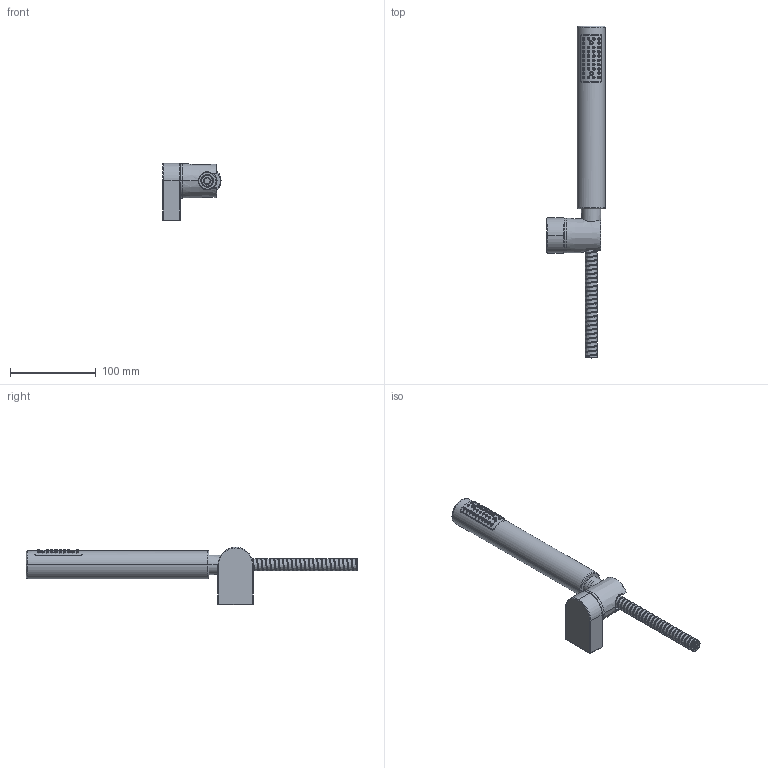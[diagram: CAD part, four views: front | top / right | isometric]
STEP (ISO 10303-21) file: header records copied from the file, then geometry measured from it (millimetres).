
FILE_DESCRIPTION (( 'STEP AP203' ), '1' );
FILE_NAME ('DSB-2561-64-3D.STEP', '2023-11-10T15:44:02', ( '' ), ( '' ), 'SwSTEP 2.0', 'SolidWorks 2022', '' );
FILE_SCHEMA (( 'CONFIG_CONTROL_DESIGN' ));
Products named in the file (1): DSB-2561-64-3D
Bounding box: 67.85 x 387 x 67 mm (x, y, z)
Volume: 222367.7 mm3; surface area: 91093.6 mm2
Topology: 6 solids, 6 shells, 667 faces, 1464 edges, 901 vertices
Faces by surface type: cylinder 294, bspline 227, plane 97, cone 23, sphere 16, torus 10
Entity records: 78470 total; most frequent: CARTESIAN_POINT 66195, ORIENTED_EDGE 2910, DIRECTION 1727, EDGE_CURVE 1455, VERTEX_POINT 899, B_SPLINE_CURVE_WITH_KNOTS 832, EDGE_LOOP 770, AXIS2_PLACEMENT_3D 698
